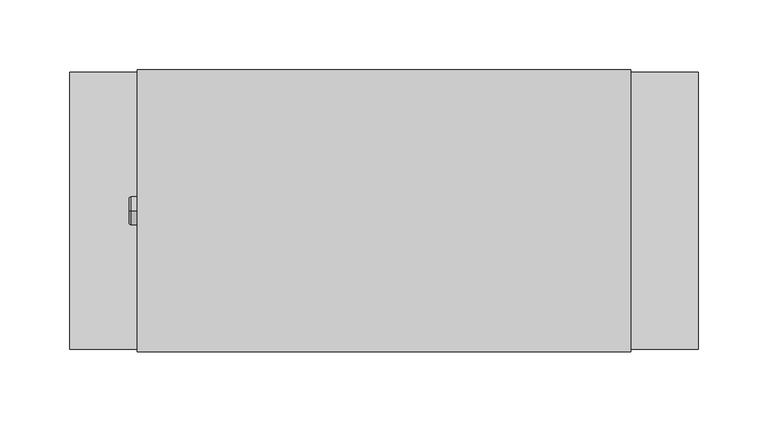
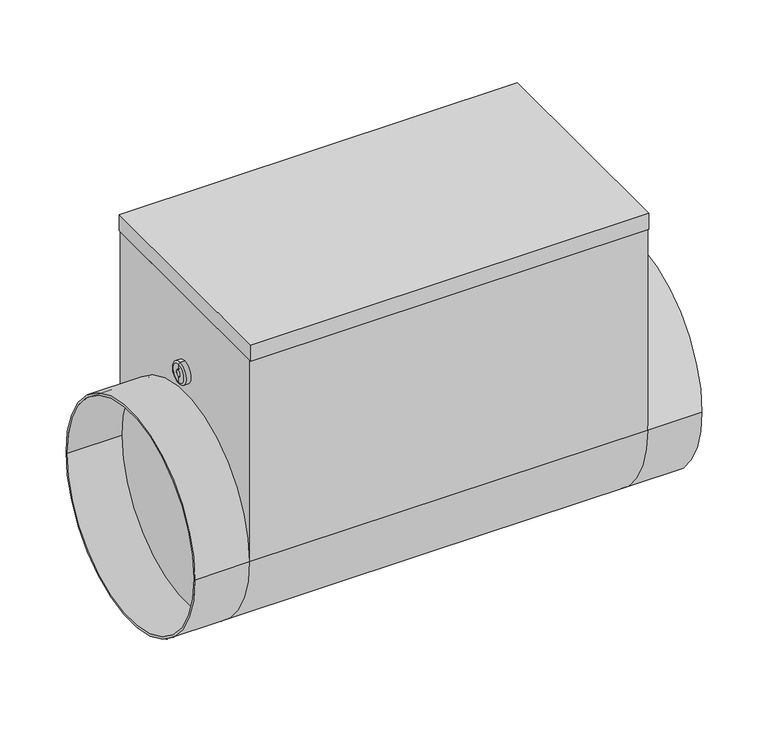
"""IFC4 building model written with IfcOpenShell, lengths in millimetres: proxy geometry."""

from ifc_helpers import new_model, si_unit, point, frame, origin, place, context, project, spatial, polyline, circle_curve, ellipse_curve, trimmed, outline, extrude, source, transform, mapped, element, save
from ifc_brep_helpers import plane_surface, cylinder_surface, revolved_surface, advanced_brep


def mechanical_equipment_28121c7c(model_context):
    return source(origin(), model_context, "Body", "SolidModel", [
        extrude(outline(polyline([(177.5, -101.5), (-177.5, -101.5), (-177.5, 101.5), (177.5, 101.5), (177.5, -101.5)])), frame((0.0, 0.0, 190.5), z_axis=(0.0, 0.0, 1.0), x_axis=(1.0, 0.0, 0.0)), (0.0, 0.0, 1.0), 15.0),
        advanced_brep(
        [(-226.0, -99.5, 0.0), (-226.0, 99.5, 0.0), (-226.0, -97.5, 0.0), (-226.0, 97.5, 0.0), (-177.5, 97.5, 0.0), (-177.5, -97.5, 0.0), (-177.5, 99.5, 0.0), (-177.5, -99.5, 0.0), (177.5, -97.5, 0.0), (177.5, 97.5, 0.0), (177.5, -99.5, 190.5), (177.5, -99.5, 0.0), (177.5, 99.5, 0.0), (177.5, 99.5, 190.5), (-177.5, -99.5, 190.5), (-177.5, 99.5, 190.5), (226.0, -99.5, 0.0), (226.0, 99.5, 0.0), (226.0, -97.5, 0.0), (226.0, 97.5, 0.0)],
        [
            (0, 1, circle_curve(frame((-226.0, 0.0, 0.0), z_axis=(-1.0, 0.0, 0.0), x_axis=(0.0, 1.0, 0.0)), 99.5)),
            (1, 0, circle_curve(frame((-226.0, 0.0, 0.0), z_axis=(-1.0, 0.0, 0.0), x_axis=(0.0, 1.0, 0.0)), 99.5)),
            (2, 3, circle_curve(frame((-226.0, 0.0, 0.0), z_axis=(1.0, 0.0, 0.0), x_axis=(0.0, 1.0, 0.0)), 97.5)),
            (3, 2, circle_curve(frame((-226.0, 0.0, 0.0), z_axis=(1.0, 0.0, 0.0), x_axis=(0.0, 1.0, 0.0)), 97.5)),
            (3, 4),
            (4, 5, circle_curve(frame((-177.5, 0.0, 0.0), z_axis=(1.0, 0.0, 0.0), x_axis=(0.0, 1.0, 0.0)), 97.5)),
            (5, 2),
            (5, 4, circle_curve(frame((-177.5, 0.0, 0.0), z_axis=(1.0, 0.0, 0.0), x_axis=(0.0, 1.0, 0.0)), 97.5)),
            (1, 6),
            (6, 7, circle_curve(frame((-177.5, 0.0, 0.0), z_axis=(-1.0, 0.0, 0.0), x_axis=(0.0, 1.0, 0.0)), 99.5)),
            (7, 0),
            (7, 6, circle_curve(frame((-177.5, 0.0, 0.0), z_axis=(-1.0, 0.0, 0.0), x_axis=(0.0, 1.0, 0.0)), 99.5)),
            (8, 9, circle_curve(frame((177.5, 0.0, 0.0), z_axis=(1.0, 0.0, 0.0), x_axis=(0.0, 1.0, 0.0)), 97.5)),
            (9, 8, circle_curve(frame((177.5, 0.0, 0.0), z_axis=(1.0, 0.0, 0.0), x_axis=(0.0, 1.0, 0.0)), 97.5)),
            (10, 11),
            (11, 12, circle_curve(frame((177.5, 0.0, 0.0), z_axis=(-1.0, 0.0, 0.0), x_axis=(0.0, 1.0, 0.0)), 99.5)),
            (12, 13),
            (13, 10),
            (7, 14),
            (14, 15),
            (15, 6),
            (6, 12),
            (12, 11, circle_curve(frame((177.5, 0.0, 0.0), z_axis=(-1.0, 0.0, 0.0), x_axis=(0.0, 1.0, 0.0)), 99.5)),
            (11, 7),
            (16, 17, circle_curve(frame((226.0, 0.0, 0.0), z_axis=(1.0, 0.0, 0.0), x_axis=(0.0, 1.0, 0.0)), 99.5)),
            (17, 16, circle_curve(frame((226.0, 0.0, 0.0), z_axis=(1.0, 0.0, 0.0), x_axis=(0.0, 1.0, 0.0)), 99.5)),
            (18, 19, circle_curve(frame((226.0, 0.0, 0.0), z_axis=(-1.0, 0.0, 0.0), x_axis=(0.0, 1.0, 0.0)), 97.5)),
            (19, 18, circle_curve(frame((226.0, 0.0, 0.0), z_axis=(-1.0, 0.0, 0.0), x_axis=(0.0, 1.0, 0.0)), 97.5)),
            (18, 8),
            (9, 19),
            (16, 11),
            (12, 17),
            (10, 14),
            (15, 13),
        ],
        [
            plane_surface(frame((-226.0, 97.5, 0.0), z_axis=(-1.0, 0.0, 0.0), x_axis=(0.0, 0.0, 1.0))),
            revolved_surface(polyline([(-226.0, 97.5, 0.0), (-177.5, 97.5, 0.0)]), (-226.0, 0.0, 0.0), (-1.0, 0.0, 0.0)),
            cylinder_surface(frame((0.0, 0.0, 0.0), z_axis=(1.0, 0.0, 0.0), x_axis=(0.0, 1.0, 0.0)), 99.5),
            plane_surface(frame((177.5, 99.5, 0.0), z_axis=(1.0, 0.0, 0.0), x_axis=(0.0, -1.0, 0.0))),
            plane_surface(frame((-177.5, 99.5, 0.0), z_axis=(-1.0, 0.0, 0.0), x_axis=(0.0, 1.0, 0.0))),
            cylinder_surface(frame((-177.5, 0.0, 0.0), z_axis=(1.0, 0.0, 0.0), x_axis=(0.0, 1.0, 0.0)), 99.5),
            plane_surface(frame((226.0, 97.5, 0.0), z_axis=(1.0, 0.0, 0.0), x_axis=(0.0, 0.0, -1.0))),
            revolved_surface(polyline([(177.5, 97.5, 0.0), (226.0, 97.5, 0.0)]), (177.5, 0.0, 0.0), (-1.0, 0.0, 0.0)),
            plane_surface(frame((-177.5, -99.5, 190.5), z_axis=(0.0, -1.0, 0.0), x_axis=(-1.0, 0.0, 0.0))),
            plane_surface(frame((-177.5, 99.5, 190.5), z_axis=(0.0, 1.0, 0.0), x_axis=(1.0, 0.0, 0.0))),
            plane_surface(frame((177.5, -99.5, 190.5), z_axis=(0.0, 0.0, 1.0), x_axis=(0.0, 1.0, 0.0))),
        ],
        [
            (0, [[1, 2], [3, 4]]),
            (1, [[-4, 5, 6, 7]]),
            (1, [[-3, -7, 8, -5]]),
            (2, [[-2, 9, 10, 11]]),
            (2, [[-1, -11, 12, -9]]),
            (3, [[13, 14]]),
            (3, [[15, 16, 17, 18]]),
            (4, [[-8, -6]]),
            (4, [[19, 20, 21, -12]]),
            (5, [[-10, 22, 23, 24]]),
            (6, [[25, 26], [27, 28]]),
            (7, [[-27, 29, -14, 30]]),
            (7, [[-28, -30, -13, -29]]),
            (2, [[-25, 31, -23, 32]]),
            (2, [[-26, -32, -16, -31]]),
            (8, [[33, -19, -24, -15]]),
            (9, [[-17, -22, -21, 34]]),
            (10, [[-33, -18, -34, -20]]),
        ],
    ),
        advanced_brep(
        [(-181.7840134, 0.0, 109.5), (-181.7840134, 0.0, 129.5), (-177.5, 0.0, 129.5), (-177.5, 0.0, 109.5), (-183.2459771, 0.0, 110.9619637), (-183.2459771, 0.0, 128.0380363), (-183.2459771, 0.0, 116.3948071), (-183.2459771, 0.0, 122.6051929), (-180.9138357, 0.0, 116.3948071), (-180.9138357, 0.0, 122.6051929), (-180.9138357, 0.0, 119.5), (-177.5, 0.0, 119.5)],
        [
            (0, 1, circle_curve(frame((-181.7840134, 0.0, 119.5), z_axis=(1.0, 0.0, 0.0), x_axis=(0.0, 0.0, 1.0)), 10.0)),
            (1, 2),
            (2, 3, circle_curve(frame((-177.5, 0.0, 119.5), z_axis=(-1.0, 0.0, 0.0), x_axis=(0.0, 0.0, 1.0)), 10.0)),
            (3, 0),
            (1, 0, circle_curve(frame((-181.7840134, 0.0, 119.5), z_axis=(1.0, 0.0, 0.0), x_axis=(0.0, 0.0, 1.0)), 10.0)),
            (3, 2, circle_curve(frame((-177.5, 0.0, 119.5), z_axis=(-1.0, 0.0, 0.0), x_axis=(0.0, 0.0, 1.0)), 10.0)),
            (4, 5, circle_curve(frame((-183.2459771, 0.0, 119.5), z_axis=(1.0, 0.0, 0.0), x_axis=(0.0, 0.0, 1.0)), 8.5380363)),
            (5, 1, circle_curve(frame((-181.7840134, 0.0, 128.0380363), z_axis=(0.0, 1.0, 0.0), x_axis=(1.0, 0.0, 0.0)), 1.4619637)),
            (0, 4, circle_curve(frame((-181.7840134, 0.0, 110.9619637), z_axis=(0.0, 1.0, 0.0), x_axis=(1.0, 0.0, 0.0)), 1.4619637)),
            (5, 4, circle_curve(frame((-183.2459771, 0.0, 119.5), z_axis=(1.0, 0.0, 0.0), x_axis=(0.0, 0.0, 1.0)), 8.5380363)),
            (6, 7, circle_curve(frame((-183.2459771, 0.0, 119.5), z_axis=(1.0, 0.0, 0.0), x_axis=(0.0, 0.0, 1.0)), 3.1051929)),
            (7, 5),
            (4, 6),
            (7, 6, circle_curve(frame((-183.2459771, 0.0, 119.5), z_axis=(1.0, 0.0, 0.0), x_axis=(0.0, 0.0, 1.0)), 3.1051929)),
            (8, 9, circle_curve(frame((-180.9138357, 0.0, 119.5), z_axis=(1.0, 0.0, 0.0), x_axis=(0.0, 0.0, 1.0)), 3.1051929)),
            (9, 7),
            (6, 8),
            (9, 8, circle_curve(frame((-180.9138357, 0.0, 119.5), z_axis=(1.0, 0.0, 0.0), x_axis=(0.0, 0.0, 1.0)), 3.1051929)),
            (10, 9),
            (8, 10),
            (2, 11),
            (11, 3),
        ],
        [
            cylinder_surface(frame((-213.1635229, 0.0, 119.5), z_axis=(-1.0, 0.0, 0.0), x_axis=(0.0, 0.0, 1.0)), 10.0),
            revolved_surface(trimmed(ellipse_curve(frame((-181.7840134, 0.0, 128.0380363), z_axis=(0.0, -1.0, 0.0), x_axis=(1.0, 0.0, 0.0)), 1.4619637, 1.4619637), [point((-181.7840134, 0.0, 129.5))], [point((-183.2459771, 0.0, 128.0380363))], True, "CARTESIAN"), (-213.1635229, 0.0, 119.5), (-1.0, 0.0, 0.0)),
            plane_surface(frame((-183.2459771, 0.0, 119.5), z_axis=(-1.0, 0.0, 0.0), x_axis=(0.0, 0.0, 1.0))),
            revolved_surface(polyline([(-183.2459771, 0.0, 122.6051929), (-180.9138357, 0.0, 122.6051929)]), (-213.1635229, 0.0, 119.5), (-1.0, 0.0, 0.0)),
            plane_surface(frame((-180.9138357, 0.0, 119.5), z_axis=(-1.0, 0.0, 0.0), x_axis=(0.0, 0.0, 1.0))),
            plane_surface(frame((-177.5, 0.0, 119.5), z_axis=(1.0, 0.0, 0.0), x_axis=(0.0, 0.0, 1.0))),
        ],
        [
            (0, [[1, 2, 3, 4]]),
            (0, [[5, -4, 6, -2]]),
            (1, [[7, 8, -1, 9]]),
            (1, [[10, -9, -5, -8]]),
            (2, [[11, 12, -7, 13]]),
            (2, [[14, -13, -10, -12]]),
            (3, [[15, 16, -11, 17]]),
            (3, [[18, -17, -14, -16]]),
            (4, [[19, -15, 20]]),
            (4, [[-20, -18, -19]]),
            (5, [[-3, 21, 22]]),
            (5, [[-6, -22, -21]]),
        ],
    ),
    ])


if __name__ == "__main__":
    model = new_model("IFC4")
    model_context = context("Model", 3, world=origin())
    ifc_project = project(units=[si_unit("LENGTHUNIT", "METRE", prefix="MILLI")], contexts=[model_context])
    site = spatial("IfcSite", under=ifc_project)
    building = spatial("IfcBuilding", under=site)
    placement = place(None, origin())
    mechanical_equipment_shape = mechanical_equipment_28121c7c(model_context)
    element("IfcBuildingElementProxy", 1, Name="Mechanical Equipment", at=placement, inside=building, context=model_context, shape_type="MappedRepresentation", body=[
        mapped(mechanical_equipment_shape, transform((0.0, 0.0, 0.0), x_axis=(1.0, 0.0, 0.0), y_axis=(0.0, 1.0, 0.0), z_axis=(0.0, 0.0, 1.0))),
    ])
    save(model, "model.ifc")
